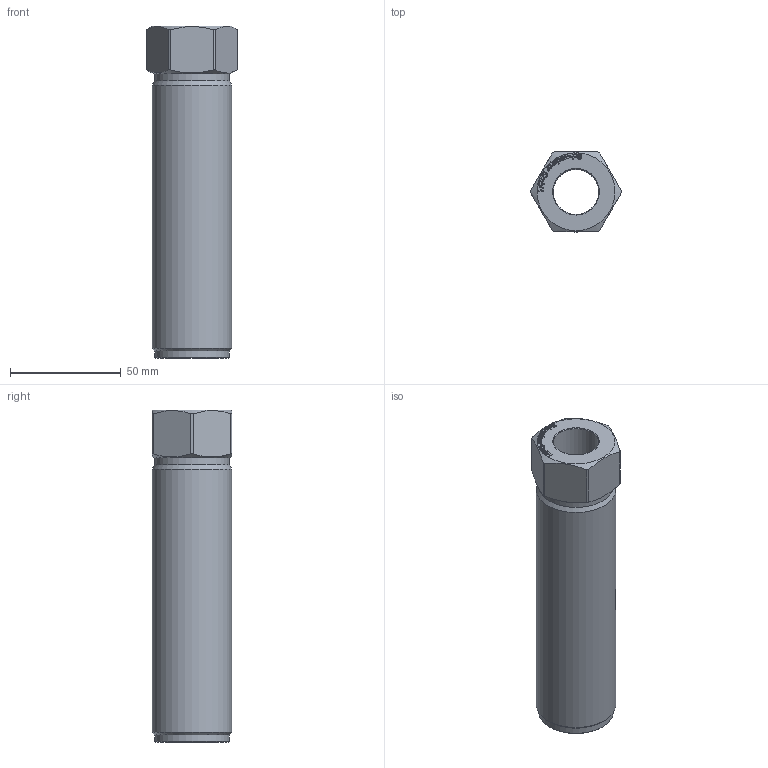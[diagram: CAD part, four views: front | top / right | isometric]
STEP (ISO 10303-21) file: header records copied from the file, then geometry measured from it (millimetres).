
FILE_DESCRIPTION(/* description */ ('HS-M36x15x150-SW36'),/* implementation_level */ '2;1');
FILE_NAME(/* name */ 'C:\Users\Public\Documents\Autodesk\Workspace\Hohlschraube\HS-M36x15x150-SW36.stp',/* time_stamp */ '2021-09-30T15:25:14+02:00',/* author */ ('T. Rey'),/* organization */ ('Schwaderer GmbH Robert-Bosch-Str. 10 71563 Affalterbach'),/* preprocessor_version */ 'ST-DEVELOPER v18.1',/* originating_system */ 'Autodesk Inventor LT',/* authorisation */ '');
FILE_SCHEMA (('CONFIG_CONTROL_DESIGN'));
Length unit declared in the file: millimetre
Products named in the file (1): S08-120-010
Bounding box: 41.04 x 36 x 150 mm (x, y, z)
Volume: 104224.3 mm3; surface area: 28304.4 mm2
Topology: 1 solids, 1 shells, 288 faces, 801 edges, 535 vertices
Faces by surface type: bspline 146, plane 125, cylinder 10, cone 7
Full cylindrical faces by diameter (mm): 20.5 x1, 33.7 x2, 36 x1
Entity records: 9405 total; most frequent: CARTESIAN_POINT 2963, ORIENTED_EDGE 1602, DIRECTION 820, EDGE_CURVE 801, VERTEX_POINT 535, LINE 460, VECTOR 460, EDGE_LOOP 310
